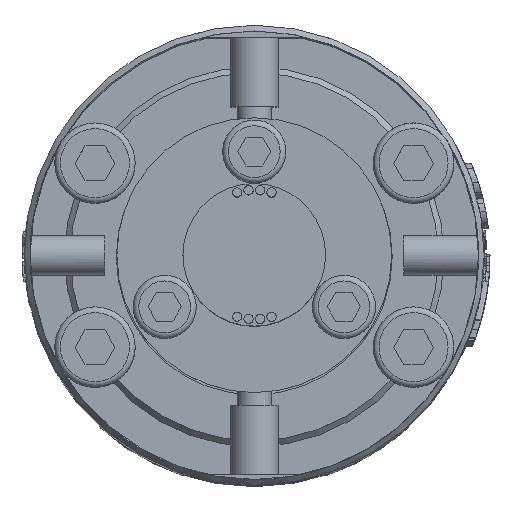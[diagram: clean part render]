
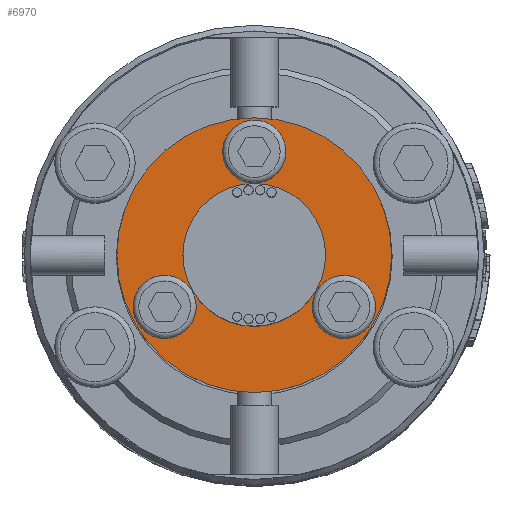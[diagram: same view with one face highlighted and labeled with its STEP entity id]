
A CAD part, top view. The second image highlights one B-rep face of the part: STEP entity #6970.
In plain terms, the highlighted planar face has unit normal (0, 0, 1).
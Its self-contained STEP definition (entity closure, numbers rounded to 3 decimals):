
#4057=PLANE('',#29101);
#6970=ADVANCED_FACE('',(#10903,#10904,#10905,#10906,#10907),#4057,.T.);
#10903=FACE_BOUND('',#12721,.T.);
#10904=FACE_BOUND('',#12722,.T.);
#10905=FACE_BOUND('',#12723,.T.);
#10906=FACE_BOUND('',#12724,.T.);
#10907=FACE_BOUND('',#12725,.T.);
#12721=EDGE_LOOP('',(#20697));
#12722=EDGE_LOOP('',(#20698));
#12723=EDGE_LOOP('',(#20699));
#12724=EDGE_LOOP('',(#20700));
#12725=EDGE_LOOP('',(#20701));
#20697=ORIENTED_EDGE('',*,*,#27573,.F.);
#20698=ORIENTED_EDGE('',*,*,#27574,.F.);
#20699=ORIENTED_EDGE('',*,*,#27575,.F.);
#20700=ORIENTED_EDGE('',*,*,#27572,.F.);
#20701=ORIENTED_EDGE('',*,*,#27576,.F.);
#23560=VERTEX_POINT('',#58083);
#23561=VERTEX_POINT('',#58086);
#23562=VERTEX_POINT('',#58088);
#23563=VERTEX_POINT('',#58090);
#23564=VERTEX_POINT('',#58092);
#27572=EDGE_CURVE('',#23560,#23560,#27927,.T.);
#27573=EDGE_CURVE('',#23561,#23561,#27928,.T.);
#27574=EDGE_CURVE('',#23562,#23562,#27929,.T.);
#27575=EDGE_CURVE('',#23563,#23563,#27930,.T.);
#27576=EDGE_CURVE('',#23564,#23564,#27931,.T.);
#27927=CIRCLE('',#29095,6.2);
#27928=CIRCLE('',#29097,2.75);
#27929=CIRCLE('',#29098,2.75);
#27930=CIRCLE('',#29099,2.75);
#27931=CIRCLE('',#29100,11.95);
#29095=AXIS2_PLACEMENT_3D('',#58082,#32981,#32982);
#29097=AXIS2_PLACEMENT_3D('',#58085,#32985,#32986);
#29098=AXIS2_PLACEMENT_3D('',#58087,#32987,#32988);
#29099=AXIS2_PLACEMENT_3D('',#58089,#32989,#32990);
#29100=AXIS2_PLACEMENT_3D('',#58091,#32991,#32992);
#29101=AXIS2_PLACEMENT_3D('',#58093,#32993,#32994);
#32981=DIRECTION('',(0.,0.,1.));
#32982=DIRECTION('',(0.,1.,0.));
#32985=DIRECTION('',(0.,0.,1.));
#32986=DIRECTION('',(1.,0.,0.));
#32987=DIRECTION('',(0.,0.,1.));
#32988=DIRECTION('',(-0.5,0.866,0.));
#32989=DIRECTION('',(0.,0.,1.));
#32990=DIRECTION('',(-0.5,-0.866,0.));
#32991=DIRECTION('',(0.,0.,-1.));
#32992=DIRECTION('',(0.,1.,0.));
#32993=DIRECTION('',(0.,0.,1.));
#32994=DIRECTION('',(0.,1.,0.));
#58082=CARTESIAN_POINT('',(0.,0.,95.5));
#58083=CARTESIAN_POINT('',(0.,6.2,95.5));
#58085=CARTESIAN_POINT('',(0.,9.,95.5));
#58086=CARTESIAN_POINT('',(2.75,9.,95.5));
#58087=CARTESIAN_POINT('',(-7.794,-4.5,95.5));
#58088=CARTESIAN_POINT('',(-9.169,-2.118,95.5));
#58089=CARTESIAN_POINT('',(7.794,-4.5,95.5));
#58090=CARTESIAN_POINT('',(6.419,-6.882,95.5));
#58091=CARTESIAN_POINT('',(0.,0.,95.5));
#58092=CARTESIAN_POINT('',(0.,11.95,95.5));
#58093=CARTESIAN_POINT('',(0.,0.,95.5));
